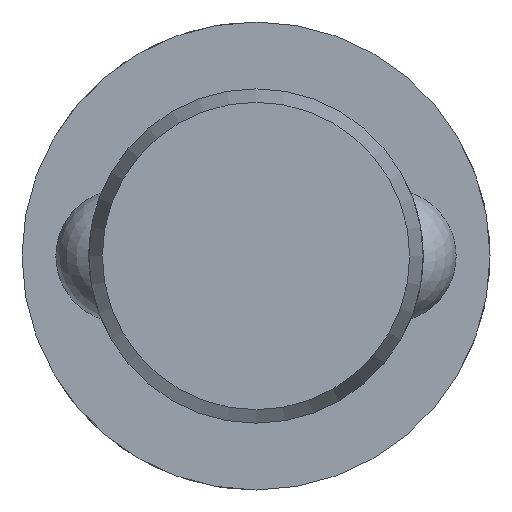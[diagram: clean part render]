
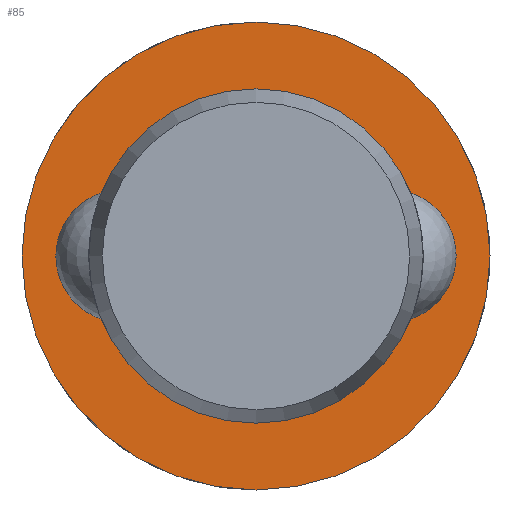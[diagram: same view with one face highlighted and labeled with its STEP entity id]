
A CAD part, left-side view. The second image highlights one B-rep face of the part: STEP entity #85.
In plain terms, the highlighted planar face has unit normal (-1, 0, 0).
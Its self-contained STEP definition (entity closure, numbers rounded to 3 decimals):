
#85 = ADVANCED_FACE( '', ( #130, #131 ), #132, .F. );
#130 = FACE_OUTER_BOUND( '', #200, .T. );
#131 = FACE_BOUND( '', #201, .T. );
#132 = PLANE( '', #202 );
#200 = EDGE_LOOP( '', ( #315 ) );
#201 = EDGE_LOOP( '', ( #316 ) );
#202 = AXIS2_PLACEMENT_3D( '', #317, #318, #319 );
#315 = ORIENTED_EDGE( '', *, *, #458, .F. );
#316 = ORIENTED_EDGE( '', *, *, #455, .T. );
#317 = CARTESIAN_POINT( '', ( 24.6, 5., 0. ) );
#318 = DIRECTION( '', ( 1., 0., 0. ) );
#319 = DIRECTION( '', ( 0., 0., -1. ) );
#455 = EDGE_CURVE( '', #528, #528, #529, .T. );
#458 = EDGE_CURVE( '', #534, #534, #535, .T. );
#528 = VERTEX_POINT( '', #732 );
#529 = CIRCLE( '', #733, 5. );
#534 = VERTEX_POINT( '', #844 );
#535 = CIRCLE( '', #845, 7. );
#732 = CARTESIAN_POINT( '', ( 24.6, 0., -5. ) );
#733 = AXIS2_PLACEMENT_3D( '', #922, #923, #924 );
#844 = CARTESIAN_POINT( '', ( 24.6, 0., -7. ) );
#845 = AXIS2_PLACEMENT_3D( '', #925, #926, #927 );
#922 = CARTESIAN_POINT( '', ( 24.6, 0., 0. ) );
#923 = DIRECTION( '', ( 1., 0., 0. ) );
#924 = DIRECTION( '', ( 0., 0., -1. ) );
#925 = CARTESIAN_POINT( '', ( 24.6, 0., 0. ) );
#926 = DIRECTION( '', ( 1., 0., 0. ) );
#927 = DIRECTION( '', ( 0., 0., -1. ) );
